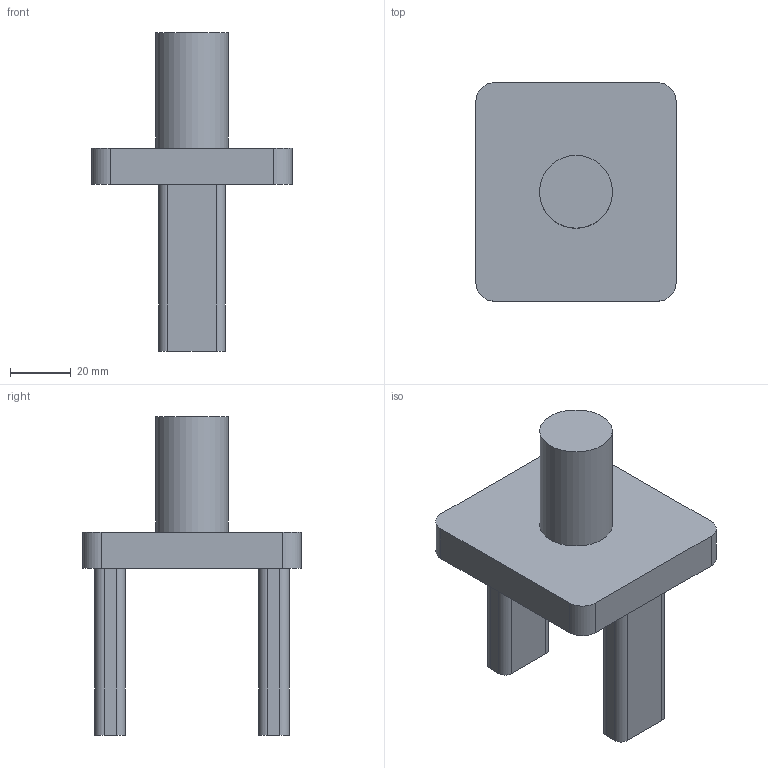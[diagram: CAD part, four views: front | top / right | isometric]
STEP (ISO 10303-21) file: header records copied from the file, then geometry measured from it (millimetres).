
FILE_DESCRIPTION(('Open CASCADE Model'),'2;1');
FILE_NAME('Open CASCADE Shape Model','2026-09-19T16:36:14',('Author'),( 'Open CASCADE'),'Open CASCADE STEP processor 7.8','Open CASCADE 7.8' ,'Unknown');
FILE_SCHEMA(('AUTOMOTIVE_DESIGN { 1 0 10303 214 1 1 1 1 }'));
Length unit declared in the file: millimetre
Products named in the file (1): Open CASCADE STEP translator 7.8 6
Bounding box: 66 x 72 x 105 mm (x, y, z)
Volume: 97194.1 mm3; surface area: 21969.2 mm2
Topology: 1 solids, 1 shells, 30 faces, 75 edges, 50 vertices
Faces by surface type: plane 17, cylinder 13
Full cylindrical faces by diameter (mm): 24 x1
Entity records: 1898 total; most frequent: CARTESIAN_POINT 370, DIRECTION 289, LINE 157, VECTOR 157, ORIENTED_EDGE 150, PCURVE 150, DEFINITIONAL_REPRESENTATION 150, EDGE_CURVE 75
